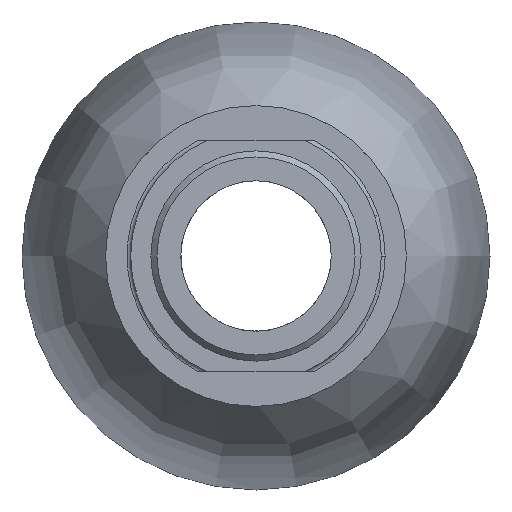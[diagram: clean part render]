
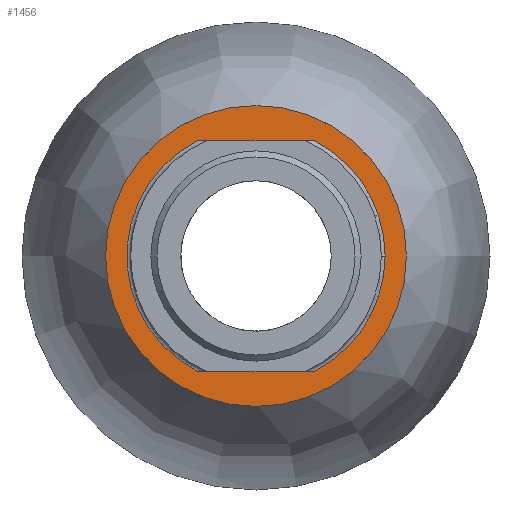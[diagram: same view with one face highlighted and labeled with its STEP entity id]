
A CAD part, front view. The second image highlights one B-rep face of the part: STEP entity #1456.
In plain terms, the highlighted planar face has unit normal (0, -1, 0).
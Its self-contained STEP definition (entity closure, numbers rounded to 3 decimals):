
#24 = VERTEX_POINT('',#25);
#25 = CARTESIAN_POINT('',(-4.631,-8.,-9.2));
#58 = VERTEX_POINT('',#59);
#59 = CARTESIAN_POINT('',(-4.631,-8.,9.2));
#82 = EDGE_CURVE('',#24,#58,#83,.T.);
#83 = CIRCLE('',#84,10.3);
#84 = AXIS2_PLACEMENT_3D('',#85,#86,#87);
#85 = CARTESIAN_POINT('',(0.,-8.,0.));
#86 = DIRECTION('',(-0.,1.,0.));
#87 = DIRECTION('',(1.,0.,0.));
#97 = EDGE_CURVE('',#24,#98,#100,.T.);
#98 = VERTEX_POINT('',#99);
#99 = CARTESIAN_POINT('',(4.631,-8.,-9.2));
#100 = LINE('',#101,#102);
#101 = CARTESIAN_POINT('',(-11.,-8.,-9.2));
#102 = VECTOR('',#103,1.);
#103 = DIRECTION('',(1.,0.,0.));
#164 = VERTEX_POINT('',#165);
#165 = CARTESIAN_POINT('',(10.3,-8.,0.));
#180 = EDGE_CURVE('',#164,#98,#181,.T.);
#181 = CIRCLE('',#182,10.3);
#182 = AXIS2_PLACEMENT_3D('',#183,#184,#185);
#183 = CARTESIAN_POINT('',(0.,-8.,0.));
#184 = DIRECTION('',(-0.,1.,0.));
#185 = DIRECTION('',(1.,0.,0.));
#198 = VERTEX_POINT('',#199);
#199 = CARTESIAN_POINT('',(4.631,-8.,9.2));
#230 = EDGE_CURVE('',#198,#164,#231,.T.);
#231 = CIRCLE('',#232,10.3);
#232 = AXIS2_PLACEMENT_3D('',#233,#234,#235);
#233 = CARTESIAN_POINT('',(0.,-8.,0.));
#234 = DIRECTION('',(-0.,1.,0.));
#235 = DIRECTION('',(1.,0.,0.));
#245 = EDGE_CURVE('',#58,#198,#246,.T.);
#246 = LINE('',#247,#248);
#247 = CARTESIAN_POINT('',(-11.,-8.,9.2));
#248 = VECTOR('',#249,1.);
#249 = DIRECTION('',(1.,0.,0.));
#1111 = EDGE_CURVE('',#1112,#1114,#1116,.T.);
#1112 = VERTEX_POINT('',#1113);
#1113 = CARTESIAN_POINT('',(7.705,-8.,9.2));
#1114 = VERTEX_POINT('',#1115);
#1115 = CARTESIAN_POINT('',(12.,-8.,0.));
#1116 = CIRCLE('',#1117,12.);
#1117 = AXIS2_PLACEMENT_3D('',#1118,#1119,#1120);
#1118 = CARTESIAN_POINT('',(0.,-8.,0.));
#1119 = DIRECTION('',(-0.,1.,0.));
#1120 = DIRECTION('',(1.,0.,0.));
#1130 = EDGE_CURVE('',#1114,#1131,#1133,.T.);
#1131 = VERTEX_POINT('',#1132);
#1132 = CARTESIAN_POINT('',(7.705,-8.,-9.2));
#1133 = CIRCLE('',#1134,12.);
#1134 = AXIS2_PLACEMENT_3D('',#1135,#1136,#1137);
#1135 = CARTESIAN_POINT('',(0.,-8.,0.));
#1136 = DIRECTION('',(-0.,1.,0.));
#1137 = DIRECTION('',(1.,0.,0.));
#1139 = EDGE_CURVE('',#1131,#1140,#1142,.T.);
#1140 = VERTEX_POINT('',#1141);
#1141 = CARTESIAN_POINT('',(-7.705,-8.,-9.2));
#1142 = CIRCLE('',#1143,12.);
#1143 = AXIS2_PLACEMENT_3D('',#1144,#1145,#1146);
#1144 = CARTESIAN_POINT('',(0.,-8.,0.));
#1145 = DIRECTION('',(-0.,1.,0.));
#1146 = DIRECTION('',(1.,0.,0.));
#1148 = EDGE_CURVE('',#1140,#1149,#1151,.T.);
#1149 = VERTEX_POINT('',#1150);
#1150 = CARTESIAN_POINT('',(-7.705,-8.,9.2));
#1151 = CIRCLE('',#1152,12.);
#1152 = AXIS2_PLACEMENT_3D('',#1153,#1154,#1155);
#1153 = CARTESIAN_POINT('',(0.,-8.,0.));
#1154 = DIRECTION('',(-0.,1.,0.));
#1155 = DIRECTION('',(1.,0.,0.));
#1157 = EDGE_CURVE('',#1149,#1112,#1158,.T.);
#1158 = CIRCLE('',#1159,12.);
#1159 = AXIS2_PLACEMENT_3D('',#1160,#1161,#1162);
#1160 = CARTESIAN_POINT('',(0.,-8.,0.));
#1161 = DIRECTION('',(-0.,1.,0.));
#1162 = DIRECTION('',(1.,0.,0.));
#1456 = ADVANCED_FACE('',(#1457,#1464),#1471,.F.);
#1457 = FACE_BOUND('',#1458,.T.);
#1458 = EDGE_LOOP('',(#1459,#1460,#1461,#1462,#1463));
#1459 = ORIENTED_EDGE('',*,*,#1148,.F.);
#1460 = ORIENTED_EDGE('',*,*,#1139,.F.);
#1461 = ORIENTED_EDGE('',*,*,#1130,.F.);
#1462 = ORIENTED_EDGE('',*,*,#1111,.F.);
#1463 = ORIENTED_EDGE('',*,*,#1157,.F.);
#1464 = FACE_BOUND('',#1465,.T.);
#1465 = EDGE_LOOP('',(#1466,#1467,#1468,#1469,#1470));
#1466 = ORIENTED_EDGE('',*,*,#82,.T.);
#1467 = ORIENTED_EDGE('',*,*,#245,.T.);
#1468 = ORIENTED_EDGE('',*,*,#230,.T.);
#1469 = ORIENTED_EDGE('',*,*,#180,.T.);
#1470 = ORIENTED_EDGE('',*,*,#97,.F.);
#1471 = PLANE('',#1472);
#1472 = AXIS2_PLACEMENT_3D('',#1473,#1474,#1475);
#1473 = CARTESIAN_POINT('',(0.,-8.,0.));
#1474 = DIRECTION('',(0.,1.,0.));
#1475 = DIRECTION('',(1.,0.,0.));
